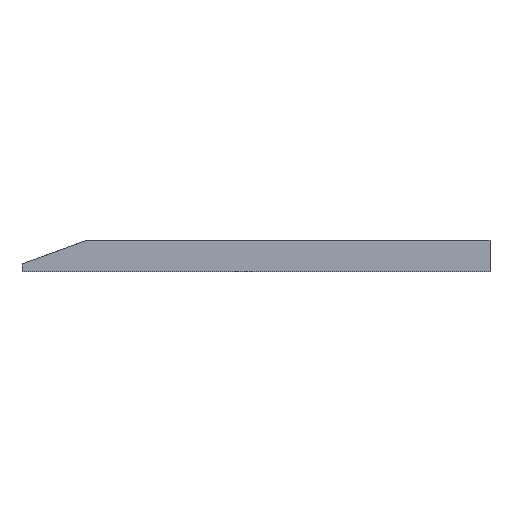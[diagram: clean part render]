
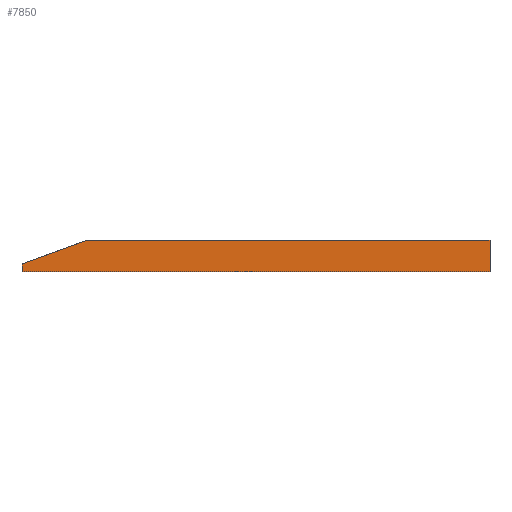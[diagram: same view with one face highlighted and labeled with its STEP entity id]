
A CAD part, front view. The second image highlights one B-rep face of the part: STEP entity #7850.
In plain terms, the highlighted planar face has unit normal (0, -1, 0).
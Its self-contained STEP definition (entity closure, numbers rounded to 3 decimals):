
#452=LINE('',#10171,#1327);
#602=LINE('',#12222,#1477);
#606=LINE('',#12232,#1481);
#649=LINE('',#12316,#1524);
#650=LINE('',#12317,#1525);
#1327=VECTOR('',#8660,1000.);
#1477=VECTOR('',#8812,1000.);
#1481=VECTOR('',#8820,1000.);
#1524=VECTOR('',#8865,1000.);
#1525=VECTOR('',#8866,1000.);
#2204=PLANE('',#8321);
#2571=FACE_OUTER_BOUND('',#3064,.T.);
#3064=EDGE_LOOP('',(#5807,#5808,#5809,#5810,#5811));
#3549=VERTEX_POINT('',#10168);
#3550=VERTEX_POINT('',#10170);
#3799=VERTEX_POINT('',#12218);
#3803=VERTEX_POINT('',#12230);
#3804=VERTEX_POINT('',#12231);
#4323=EDGE_CURVE('',#3549,#3550,#452,.T.);
#4575=EDGE_CURVE('',#3550,#3799,#602,.T.);
#4579=EDGE_CURVE('',#3803,#3804,#606,.T.);
#4622=EDGE_CURVE('',#3549,#3803,#649,.T.);
#4623=EDGE_CURVE('',#3804,#3799,#650,.T.);
#5807=ORIENTED_EDGE('',*,*,#4323,.F.);
#5808=ORIENTED_EDGE('',*,*,#4622,.T.);
#5809=ORIENTED_EDGE('',*,*,#4579,.T.);
#5810=ORIENTED_EDGE('',*,*,#4623,.T.);
#5811=ORIENTED_EDGE('',*,*,#4575,.F.);
#7850=ADVANCED_FACE('',(#2571),#2204,.F.);
#8321=AXIS2_PLACEMENT_3D('',#12315,#8863,#8864);
#8660=DIRECTION('',(1.,0.,0.));
#8812=DIRECTION('',(0.,0.,-1.));
#8820=DIRECTION('',(0.,0.,-1.));
#8863=DIRECTION('center_axis',(0.,1.,0.));
#8864=DIRECTION('ref_axis',(0.,0.,1.));
#8865=DIRECTION('',(-0.94,0.,-0.342));
#8866=DIRECTION('',(1.,0.,0.));
#10168=CARTESIAN_POINT('',(-21.758,-100.,4.));
#10170=CARTESIAN_POINT('',(30.,-100.,4.));
#10171=CARTESIAN_POINT('',(-30.,-100.,4.));
#12218=CARTESIAN_POINT('',(30.,-100.,0.));
#12222=CARTESIAN_POINT('',(30.,-100.,4.));
#12230=CARTESIAN_POINT('',(-30.,-100.,1.));
#12231=CARTESIAN_POINT('',(-30.,-100.,0.));
#12232=CARTESIAN_POINT('',(-30.,-100.,4.));
#12315=CARTESIAN_POINT('Origin',(-30.,-100.,4.));
#12316=CARTESIAN_POINT('',(-21.758,-100.,4.));
#12317=CARTESIAN_POINT('',(-30.,-100.,0.));
